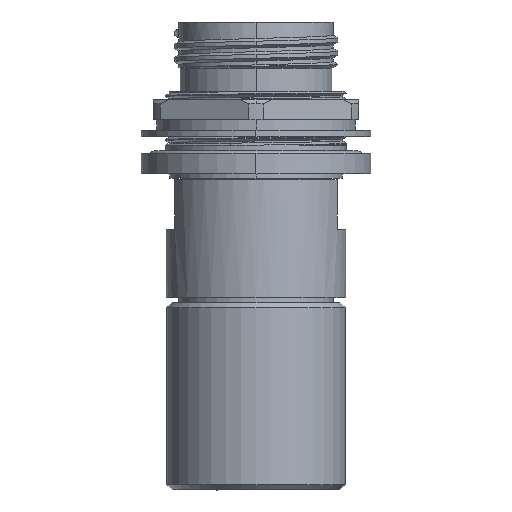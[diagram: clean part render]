
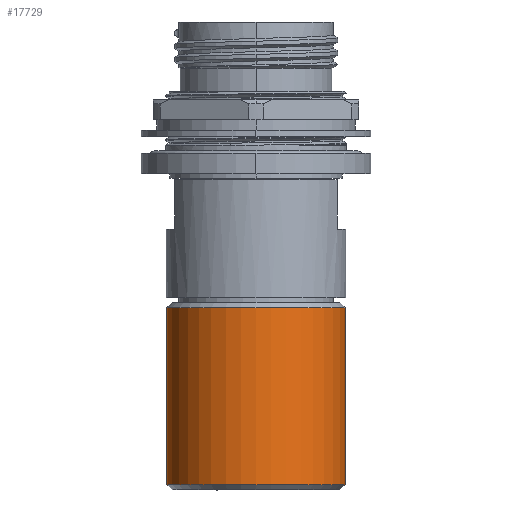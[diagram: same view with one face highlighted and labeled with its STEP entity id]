
A CAD part, left-side view. The second image highlights one B-rep face of the part: STEP entity #17729.
In plain terms, the highlighted cylindrical face has radius 17.145 mm (diameter 34.29 mm), a partial arc.
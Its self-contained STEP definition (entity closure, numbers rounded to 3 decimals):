
#286 = CARTESIAN_POINT ( 'NONE',  ( 0., -17.145, -54.991 ) ) ;
#1883 = DIRECTION ( 'NONE',  ( 0., -1., 0. ) ) ;
#2954 = DIRECTION ( 'NONE',  ( 0., 0., 1. ) ) ;
#3113 = VERTEX_POINT ( 'NONE', #286 ) ;
#3497 = ORIENTED_EDGE ( 'NONE', *, *, #6899, .T. ) ;
#3688 = VERTEX_POINT ( 'NONE', #4551 ) ;
#4242 = VECTOR ( 'NONE', #9398, 1000. ) ;
#4263 = DIRECTION ( 'NONE',  ( 0., 1., 0. ) ) ;
#4326 = CARTESIAN_POINT ( 'NONE',  ( 0., 0., -89.027 ) ) ;
#4472 = LINE ( 'NONE', #10999, #5496 ) ;
#4551 = CARTESIAN_POINT ( 'NONE',  ( 0., -17.145, -89.027 ) ) ;
#5496 = VECTOR ( 'NONE', #20503, 1000. ) ;
#5988 = FACE_OUTER_BOUND ( 'NONE', #12856, .T. ) ;
#6899 = EDGE_CURVE ( 'NONE', #8133, #3688, #11553, .T. ) ;
#7129 = AXIS2_PLACEMENT_3D ( 'NONE', #4326, #18763, #18866 ) ;
#7492 = CARTESIAN_POINT ( 'NONE',  ( 0., 0., -90.043 ) ) ;
#7894 = AXIS2_PLACEMENT_3D ( 'NONE', #8213, #16098, #1883 ) ;
#8133 = VERTEX_POINT ( 'NONE', #14760 ) ;
#8213 = CARTESIAN_POINT ( 'NONE',  ( 0., 0., -54.991 ) ) ;
#8232 = ORIENTED_EDGE ( 'NONE', *, *, #12515, .F. ) ;
#9398 = DIRECTION ( 'NONE',  ( 0., 0., 1. ) ) ;
#10999 = CARTESIAN_POINT ( 'NONE',  ( 0., 17.145, -90.043 ) ) ;
#11553 = CIRCLE ( 'NONE', #7129, 17.145 ) ;
#11570 = CARTESIAN_POINT ( 'NONE',  ( 0., 17.145, -54.991 ) ) ;
#12093 = AXIS2_PLACEMENT_3D ( 'NONE', #7492, #2954, #4263 ) ;
#12515 = EDGE_CURVE ( 'NONE', #8133, #17609, #4472, .T. ) ;
#12630 = EDGE_CURVE ( 'NONE', #3113, #17609, #17080, .T. ) ;
#12712 = LINE ( 'NONE', #19016, #4242 ) ;
#12856 = EDGE_LOOP ( 'NONE', ( #8232, #3497, #20205, #14134 ) ) ;
#14134 = ORIENTED_EDGE ( 'NONE', *, *, #12630, .T. ) ;
#14760 = CARTESIAN_POINT ( 'NONE',  ( 0., 17.145, -89.027 ) ) ;
#16098 = DIRECTION ( 'NONE',  ( 0., 0., -1. ) ) ;
#17080 = CIRCLE ( 'NONE', #7894, 17.145 ) ;
#17595 = CYLINDRICAL_SURFACE ( 'NONE', #12093, 17.145 ) ;
#17609 = VERTEX_POINT ( 'NONE', #11570 ) ;
#17729 = ADVANCED_FACE ( 'NONE', ( #5988 ), #17595, .T. ) ;
#18763 = DIRECTION ( 'NONE',  ( 0., 0., 1. ) ) ;
#18866 = DIRECTION ( 'NONE',  ( 0., 1., 0. ) ) ;
#18903 = EDGE_CURVE ( 'NONE', #3688, #3113, #12712, .T. ) ;
#19016 = CARTESIAN_POINT ( 'NONE',  ( 0., -17.145, -90.043 ) ) ;
#20205 = ORIENTED_EDGE ( 'NONE', *, *, #18903, .T. ) ;
#20503 = DIRECTION ( 'NONE',  ( 0., 0., 1. ) ) ;
